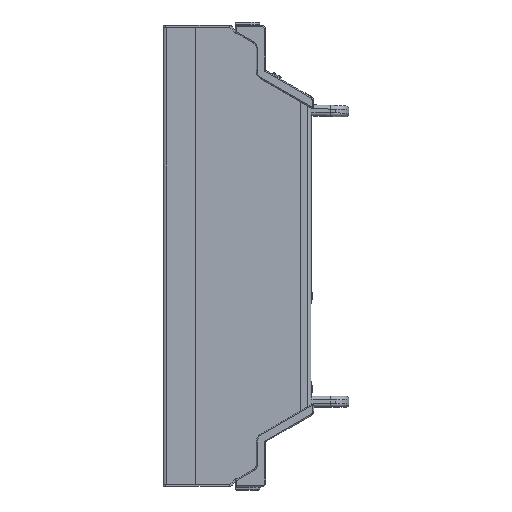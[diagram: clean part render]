
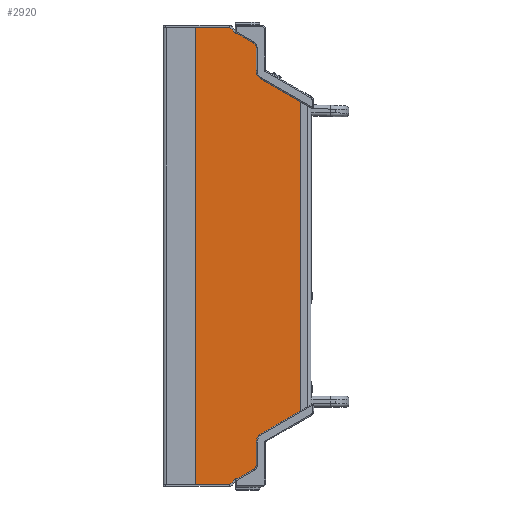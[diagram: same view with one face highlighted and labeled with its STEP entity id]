
A CAD part, front view. The second image highlights one B-rep face of the part: STEP entity #2920.
In plain terms, the highlighted planar face has unit normal (0, -1, 0).
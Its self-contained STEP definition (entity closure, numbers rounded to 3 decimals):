
#2570=DIRECTION('',(-1.,0.,0.));
#2571=VECTOR('',#2570,36.039);
#2572=CARTESIAN_POINT('',(-23.083,-65.,247.3));
#2573=LINE('',#2572,#2571);
#2599=DIRECTION('',(-0.866,0.,-0.5));
#2600=VECTOR('',#2599,46.035);
#2601=CARTESIAN_POINT('',(54.118,-65.,-173.787));
#2602=LINE('',#2601,#2600);
#2603=CARTESIAN_POINT('',(16.601,-65.,-200.874));
#2604=DIRECTION('',(0.,-1.,0.));
#2605=DIRECTION('',(-0.5,0.,0.866));
#2606=AXIS2_PLACEMENT_3D('',#2603,#2604,#2605);
#2608=DIRECTION('',(0.,0.,-1.));
#2609=VECTOR('',#2608,37.287);
#2610=CARTESIAN_POINT('',(11.901,-65.,-200.874));
#2611=LINE('',#2610,#2609);
#2612=CARTESIAN_POINT('',(9.101,-65.,-238.161));
#2613=DIRECTION('',(0.,1.,0.));
#2614=DIRECTION('',(1.,0.,0.));
#2615=AXIS2_PLACEMENT_3D('',#2612,#2613,#2614);
#2617=DIRECTION('',(-1.,0.,0.));
#2618=VECTOR('',#2617,22.739);
#2619=CARTESIAN_POINT('',(9.101,-65.,-240.961));
#2620=LINE('',#2619,#2618);
#2621=CARTESIAN_POINT('',(-13.638,-65.,-245.661));
#2622=DIRECTION('',(0.,-1.,0.));
#2623=DIRECTION('',(0.,0.,1.));
#2624=AXIS2_PLACEMENT_3D('',#2621,#2622,#2623);
#2626=DIRECTION('',(-0.707,0.,-0.707));
#2627=VECTOR('',#2626,5.858);
#2628=CARTESIAN_POINT('',(-16.961,-65.,-242.338));
#2629=LINE('',#2628,#2627);
#2630=CARTESIAN_POINT('',(-23.083,-65.,-244.5));
#2631=DIRECTION('',(0.,1.,0.));
#2632=DIRECTION('',(0.707,0.,-0.707));
#2633=AXIS2_PLACEMENT_3D('',#2630,#2631,#2632);
#2635=DIRECTION('',(0.,0.,1.));
#2636=VECTOR('',#2635,494.6);
#2637=CARTESIAN_POINT('',(-59.122,-65.,-247.3));
#2638=LINE('',#2637,#2636);
#2639=CARTESIAN_POINT('',(-23.083,-65.,244.5));
#2640=DIRECTION('',(0.,1.,0.));
#2641=DIRECTION('',(0.,0.,1.));
#2642=AXIS2_PLACEMENT_3D('',#2639,#2640,#2641);
#2644=DIRECTION('',(0.707,0.,-0.707));
#2645=VECTOR('',#2644,5.858);
#2646=CARTESIAN_POINT('',(-21.104,-65.,246.48));
#2647=LINE('',#2646,#2645);
#2648=CARTESIAN_POINT('',(-13.638,-65.,245.661));
#2649=DIRECTION('',(0.,-1.,0.));
#2650=DIRECTION('',(-0.707,0.,-0.707));
#2651=AXIS2_PLACEMENT_3D('',#2648,#2649,#2650);
#2653=DIRECTION('',(1.,0.,0.));
#2654=VECTOR('',#2653,22.739);
#2655=CARTESIAN_POINT('',(-13.638,-65.,240.961));
#2656=LINE('',#2655,#2654);
#2657=CARTESIAN_POINT('',(9.101,-65.,238.161));
#2658=DIRECTION('',(0.,1.,0.));
#2659=DIRECTION('',(0.,0.,1.));
#2660=AXIS2_PLACEMENT_3D('',#2657,#2658,#2659);
#2662=DIRECTION('',(0.,0.,-1.));
#2663=VECTOR('',#2662,37.287);
#2664=CARTESIAN_POINT('',(11.901,-65.,238.161));
#2665=LINE('',#2664,#2663);
#2666=CARTESIAN_POINT('',(16.601,-65.,200.874));
#2667=DIRECTION('',(0.,-1.,0.));
#2668=DIRECTION('',(-1.,0.,0.));
#2669=AXIS2_PLACEMENT_3D('',#2666,#2667,#2668);
#2671=DIRECTION('',(0.866,0.,-0.5));
#2672=VECTOR('',#2671,46.035);
#2673=CARTESIAN_POINT('',(14.251,-65.,196.804));
#2674=LINE('',#2673,#2672);
#2704=DIRECTION('',(1.,0.,0.));
#2705=VECTOR('',#2704,36.039);
#2706=CARTESIAN_POINT('',(-59.122,-65.,-247.3));
#2707=LINE('',#2706,#2705);
#2724=DIRECTION('',(0.,0.,1.));
#2725=VECTOR('',#2724,347.573);
#2726=CARTESIAN_POINT('',(54.118,-65.,-173.787));
#2727=LINE('',#2726,#2725);
#2736=CARTESIAN_POINT('',(-23.083,-65.,247.3));
#2737=VERTEX_POINT('',#2736);
#2738=CARTESIAN_POINT('',(-59.122,-65.,247.3));
#2739=VERTEX_POINT('',#2738);
#2758=CARTESIAN_POINT('',(54.118,-65.,-173.787));
#2759=CARTESIAN_POINT('',(14.251,-65.,-196.804));
#2760=VERTEX_POINT('',#2758);
#2761=VERTEX_POINT('',#2759);
#2762=CARTESIAN_POINT('',(11.901,-65.,-200.874));
#2763=VERTEX_POINT('',#2762);
#2764=CARTESIAN_POINT('',(11.901,-65.,-238.161));
#2765=VERTEX_POINT('',#2764);
#2766=CARTESIAN_POINT('',(9.101,-65.,-240.961));
#2767=VERTEX_POINT('',#2766);
#2768=CARTESIAN_POINT('',(-13.638,-65.,-240.961));
#2769=VERTEX_POINT('',#2768);
#2770=CARTESIAN_POINT('',(-16.961,-65.,-242.338));
#2771=VERTEX_POINT('',#2770);
#2772=CARTESIAN_POINT('',(-21.104,-65.,-246.48));
#2773=VERTEX_POINT('',#2772);
#2774=CARTESIAN_POINT('',(-23.083,-65.,-247.3));
#2775=VERTEX_POINT('',#2774);
#2776=CARTESIAN_POINT('',(-59.122,-65.,-247.3));
#2777=VERTEX_POINT('',#2776);
#2778=CARTESIAN_POINT('',(-21.104,-65.,246.48));
#2779=VERTEX_POINT('',#2778);
#2780=CARTESIAN_POINT('',(-16.961,-65.,242.338));
#2781=VERTEX_POINT('',#2780);
#2782=CARTESIAN_POINT('',(-13.638,-65.,240.961));
#2783=VERTEX_POINT('',#2782);
#2784=CARTESIAN_POINT('',(9.101,-65.,240.961));
#2785=VERTEX_POINT('',#2784);
#2786=CARTESIAN_POINT('',(11.901,-65.,238.161));
#2787=VERTEX_POINT('',#2786);
#2788=CARTESIAN_POINT('',(11.901,-65.,200.874));
#2789=VERTEX_POINT('',#2788);
#2790=CARTESIAN_POINT('',(14.251,-65.,196.804));
#2791=VERTEX_POINT('',#2790);
#2792=CARTESIAN_POINT('',(54.118,-65.,173.787));
#2793=VERTEX_POINT('',#2792);
#2876=CARTESIAN_POINT('',(0.,-65.,0.));
#2877=DIRECTION('',(0.,-1.,0.));
#2878=DIRECTION('',(1.,0.,0.));
#2879=AXIS2_PLACEMENT_3D('',#2876,#2877,#2878);
#2880=PLANE('',#2879);
#2882=ORIENTED_EDGE('',*,*,#2881,.T.);
#2884=ORIENTED_EDGE('',*,*,#2883,.T.);
#2886=ORIENTED_EDGE('',*,*,#2885,.T.);
#2888=ORIENTED_EDGE('',*,*,#2887,.T.);
#2890=ORIENTED_EDGE('',*,*,#2889,.T.);
#2892=ORIENTED_EDGE('',*,*,#2891,.T.);
#2894=ORIENTED_EDGE('',*,*,#2893,.T.);
#2896=ORIENTED_EDGE('',*,*,#2895,.T.);
#2898=ORIENTED_EDGE('',*,*,#2897,.F.);
#2900=ORIENTED_EDGE('',*,*,#2899,.T.);
#2901=ORIENTED_EDGE('',*,*,#2803,.F.);
#2902=ORIENTED_EDGE('',*,*,#2831,.T.);
#2903=ORIENTED_EDGE('',*,*,#2858,.T.);
#2905=ORIENTED_EDGE('',*,*,#2904,.T.);
#2907=ORIENTED_EDGE('',*,*,#2906,.T.);
#2909=ORIENTED_EDGE('',*,*,#2908,.T.);
#2911=ORIENTED_EDGE('',*,*,#2910,.T.);
#2913=ORIENTED_EDGE('',*,*,#2912,.T.);
#2915=ORIENTED_EDGE('',*,*,#2914,.T.);
#2917=ORIENTED_EDGE('',*,*,#2916,.F.);
#2918=EDGE_LOOP('',(#2882,#2884,#2886,#2888,#2890,#2892,#2894,#2896,#2898,#2900,
#2901,#2902,#2903,#2905,#2907,#2909,#2911,#2913,#2915,#2917));
#2919=FACE_OUTER_BOUND('',#2918,.F.);
#2607=CIRCLE('',#2606,4.7);
#2616=CIRCLE('',#2615,2.8);
#2625=CIRCLE('',#2624,4.7);
#2634=CIRCLE('',#2633,2.8);
#2643=CIRCLE('',#2642,2.8);
#2652=CIRCLE('',#2651,4.7);
#2661=CIRCLE('',#2660,2.8);
#2670=CIRCLE('',#2669,4.7);
#2803=EDGE_CURVE('',#2737,#2739,#2573,.T.);
#2831=EDGE_CURVE('',#2737,#2779,#2643,.T.);
#2858=EDGE_CURVE('',#2779,#2781,#2647,.T.);
#2881=EDGE_CURVE('',#2760,#2761,#2602,.T.);
#2883=EDGE_CURVE('',#2761,#2763,#2607,.T.);
#2885=EDGE_CURVE('',#2763,#2765,#2611,.T.);
#2887=EDGE_CURVE('',#2765,#2767,#2616,.T.);
#2889=EDGE_CURVE('',#2767,#2769,#2620,.T.);
#2891=EDGE_CURVE('',#2769,#2771,#2625,.T.);
#2893=EDGE_CURVE('',#2771,#2773,#2629,.T.);
#2895=EDGE_CURVE('',#2773,#2775,#2634,.T.);
#2897=EDGE_CURVE('',#2777,#2775,#2707,.T.);
#2899=EDGE_CURVE('',#2777,#2739,#2638,.T.);
#2904=EDGE_CURVE('',#2781,#2783,#2652,.T.);
#2906=EDGE_CURVE('',#2783,#2785,#2656,.T.);
#2908=EDGE_CURVE('',#2785,#2787,#2661,.T.);
#2910=EDGE_CURVE('',#2787,#2789,#2665,.T.);
#2912=EDGE_CURVE('',#2789,#2791,#2670,.T.);
#2914=EDGE_CURVE('',#2791,#2793,#2674,.T.);
#2916=EDGE_CURVE('',#2760,#2793,#2727,.T.);
#2920=ADVANCED_FACE('',(#2919),#2880,.T.);
